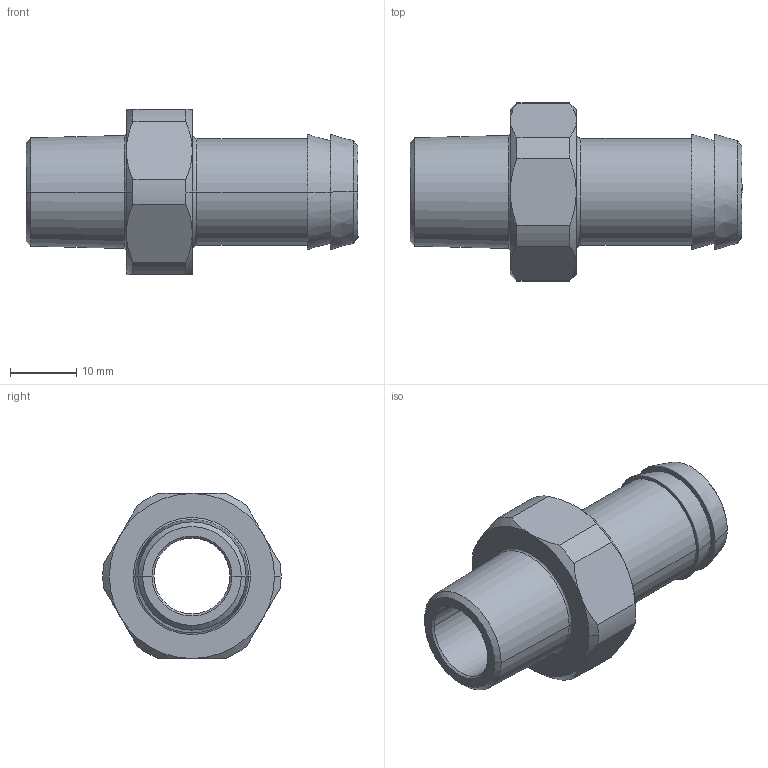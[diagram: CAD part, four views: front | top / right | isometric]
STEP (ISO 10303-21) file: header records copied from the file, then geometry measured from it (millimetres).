
FILE_DESCRIPTION(/* description */ (''),/* implementation_level */ '2;1');
FILE_NAME(/* name */ 'FIT_V16N38',/* time_stamp */ '2025-11-25T16:51:02+09:00',/* author */ (''),/* organization */ (''),/* preprocessor_version */ 'ST-DEVELOPER v19.2',/* originating_system */ 'Rhino 8.21',/* authorisation */ '');
FILE_SCHEMA (('CONFIG_CONTROL_DESIGN'));
Length unit declared in the file: millimetre
Products named in the file (1): Document
Bounding box: 50.3 x 26.99 x 25 mm (x, y, z)
Volume: 7836.9 mm3; surface area: 5622.4 mm2
Topology: 1 solids, 1 shells, 56 faces, 124 edges, 70 vertices
Faces by surface type: bspline 34, plane 12, cylinder 10
Entity records: 2259 total; most frequent: CARTESIAN_POINT 1166, ORIENTED_EDGE 248, DIRECTION 138, EDGE_CURVE 124, AXIS2_PLACEMENT_3D 80, VERTEX_POINT 70, EDGE_LOOP 58, ADVANCED_FACE 56
